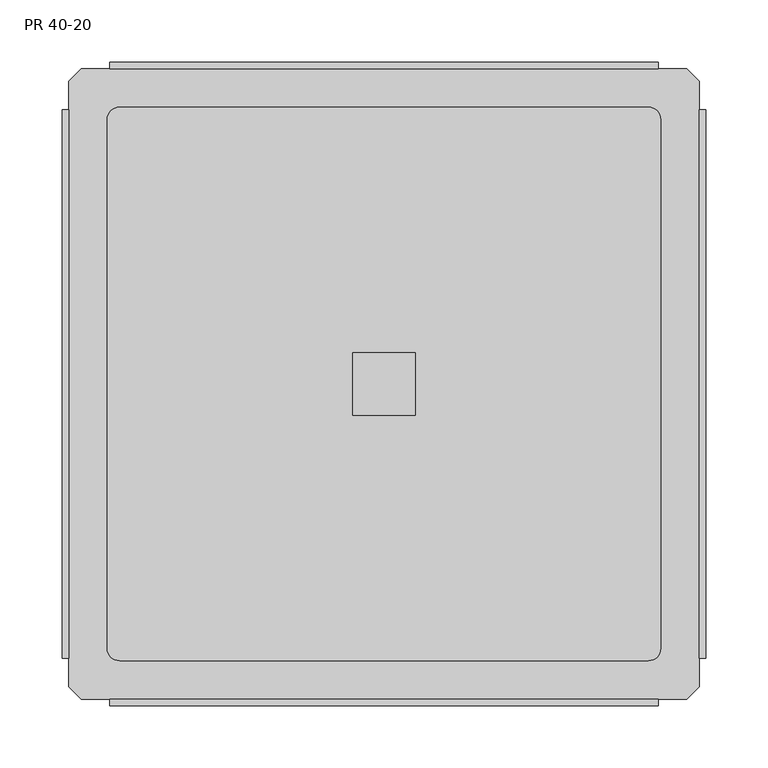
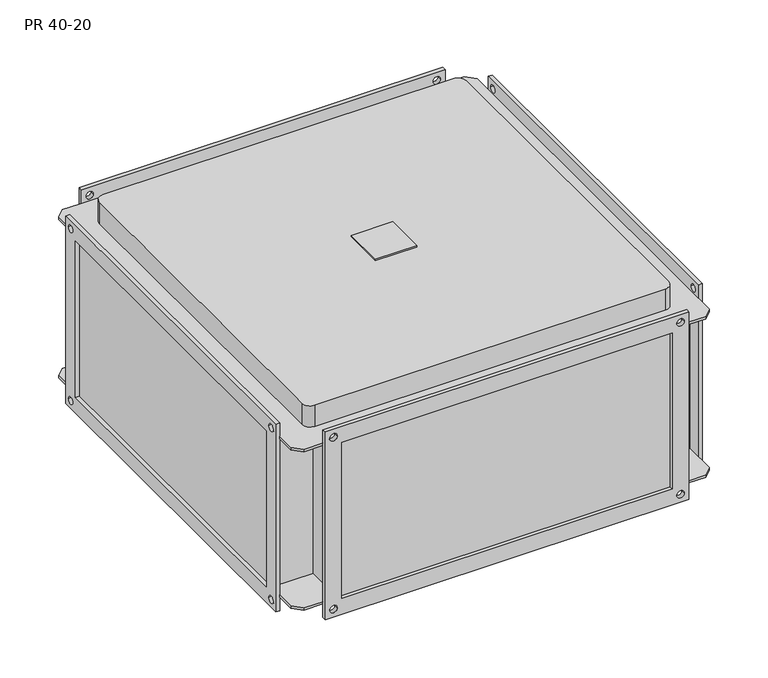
"""IFC4 building model written with IfcOpenShell, lengths in millimetres: proxy geometry, KORF_Рекуператор_Пластинчатый_PR : PR 40-20."""

from ifc_helpers import new_model, si_unit, point, frame, frame_2d, origin, place, context, project, spatial, polyline, circle_curve, trimmed, segment, composite_curve, outline, extrude, source, transform, mapped, element, save
from ifc_brep_helpers import plane_surface, cylinder_surface, revolved_surface, advanced_brep


def pr_40_20_e5f7a301(model_context):
    return source(origin(), model_context, "Body", "SolidModel", [
        extrude(outline(polyline([(233.0, -25.0), (233.0, 25.0), (283.0, 25.0), (283.0, -25.0), (233.0, -25.0)])), frame((0.0, 0.0, 130.0), z_axis=(0.0, 0.0, 1.0), x_axis=(1.0, 0.0, 0.0)), (0.0, 0.0, 1.0), 2.0),
        advanced_brep(
        [(458.0, -253.0, -100.0), (458.0, -253.0, 100.0), (58.0, -253.0, 100.0), (58.0, -253.0, -100.0), (458.0, 253.0, 100.0), (458.0, 253.0, -100.0), (58.0, 253.0, -100.0), (58.0, 253.0, 100.0), (15.0, 253.0, 103.0), (5.0, 243.0, 103.0), (5.0, -243.0, 103.0), (15.0, -253.0, 103.0), (38.0, -253.0, 103.0), (478.0, -253.0, 103.0), (501.0, -253.0, 103.0), (511.0, -243.0, 103.0), (511.0, 243.0, 103.0), (501.0, 253.0, 103.0), (478.0, 253.0, 103.0), (38.0, 253.0, 103.0), (46.0, 222.0, 103.0), (470.0, 222.0, 103.0), (480.0, 212.0, 103.0), (480.0, -212.0, 103.0), (470.0, -222.0, 103.0), (46.0, -222.0, 103.0), (36.0, -212.0, 103.0), (36.0, 212.0, 103.0), (55.0, -253.0, 100.0), (55.0, -203.0, 100.0), (55.0, -203.0, -100.0), (55.0, -253.0, -100.0), (55.0, 203.0, 100.0), (55.0, 253.0, 100.0), (55.0, 253.0, -100.0), (55.0, 203.0, -100.0), (5.0, 243.0, -103.0), (15.0, 253.0, -103.0), (38.0, 253.0, -103.0), (478.0, 253.0, -103.0), (501.0, 253.0, -103.0), (511.0, 243.0, -103.0), (511.0, -243.0, -103.0), (501.0, -253.0, -103.0), (478.0, -253.0, -103.0), (38.0, -253.0, -103.0), (15.0, -253.0, -103.0), (5.0, -243.0, -103.0), (461.0, -203.0, 100.0), (461.0, -253.0, 100.0), (461.0, -253.0, -100.0), (461.0, -203.0, -100.0), (461.0, 253.0, 100.0), (461.0, 203.0, 100.0), (461.0, 203.0, -100.0), (461.0, 253.0, -100.0), (511.0, 203.0, 100.0), (511.0, 243.0, 100.0), (511.0, -243.0, 100.0), (511.0, -203.0, 100.0), (511.0, -203.0, -100.0), (511.0, -243.0, -100.0), (511.0, 243.0, -100.0), (511.0, 203.0, -100.0), (5.0, 243.0, 100.0), (5.0, 203.0, 100.0), (5.0, 203.0, -100.0), (5.0, 243.0, -100.0), (5.0, -243.0, -100.0), (5.0, -203.0, -100.0), (5.0, -203.0, 100.0), (5.0, -243.0, 100.0), (478.0, 258.0, 120.0), (478.0, 258.0, -120.0), (38.0, 258.0, -120.0), (38.0, 258.0, 120.0), (458.0, 258.0, 100.0), (58.0, 258.0, 100.0), (58.0, 258.0, -100.0), (458.0, 258.0, -100.0), (43.5, 258.0, 110.0), (52.5, 258.0, 110.0), (463.5, 258.0, 110.0), (472.5, 258.0, 110.0), (463.5, 258.0, -110.0), (472.5, 258.0, -110.0), (43.5, 258.0, -110.0), (52.5, 258.0, -110.0), (478.0, 253.0, 120.0), (38.0, 253.0, 120.0), (43.5, 253.0, 110.0), (52.5, 253.0, 110.0), (463.5, 253.0, 110.0), (472.5, 253.0, 110.0), (38.0, 253.0, -120.0), (478.0, 253.0, -120.0), (463.5, 253.0, -110.0), (472.5, 253.0, -110.0), (43.5, 253.0, -110.0), (52.5, 253.0, -110.0), (38.0, 253.0, 100.0), (38.0, 253.0, -100.0), (478.0, 253.0, 100.0), (478.0, 253.0, -100.0), (478.0, -258.0, 120.0), (38.0, -258.0, 120.0), (38.0, -258.0, -120.0), (478.0, -258.0, -120.0), (458.0, -258.0, 100.0), (458.0, -258.0, -100.0), (58.0, -258.0, -100.0), (58.0, -258.0, 100.0), (463.5, -258.0, 110.0), (472.5, -258.0, 110.0), (463.5, -258.0, -110.0), (472.5, -258.0, -110.0), (43.5, -258.0, 110.0), (52.5, -258.0, 110.0), (43.5, -258.0, -110.0), (52.5, -258.0, -110.0), (478.0, -253.0, -120.0), (38.0, -253.0, -120.0), (463.5, -253.0, -110.0), (472.5, -253.0, -110.0), (43.5, -253.0, -110.0), (52.5, -253.0, -110.0), (38.0, -253.0, 120.0), (478.0, -253.0, 120.0), (463.5, -253.0, 110.0), (472.5, -253.0, 110.0), (43.5, -253.0, 110.0), (52.5, -253.0, 110.0), (38.0, -253.0, 100.0), (38.0, -253.0, -100.0), (478.0, -253.0, 100.0), (478.0, -253.0, -100.0), (501.0, -253.0, 100.0), (15.0, 253.0, 100.0), (501.0, 253.0, 100.0), (15.0, -253.0, 100.0), (501.0, 253.0, -100.0), (15.0, -253.0, -100.0), (15.0, 253.0, -100.0), (501.0, -253.0, -100.0), (470.0, 222.0, 130.0), (46.0, 222.0, 130.0), (36.0, 212.0, 130.0), (36.0, -212.0, 130.0), (46.0, -222.0, 130.0), (470.0, -222.0, 130.0), (480.0, -212.0, 130.0), (480.0, 212.0, 130.0)],
        [
            (0, 1),
            (1, 2),
            (2, 3),
            (3, 0),
            (4, 5),
            (5, 6),
            (6, 7),
            (7, 4),
            (8, 9),
            (9, 10),
            (10, 11),
            (11, 12),
            (12, 13),
            (13, 14),
            (14, 15),
            (15, 16),
            (16, 17),
            (17, 18),
            (18, 19),
            (19, 8),
            (20, 21),
            (21, 22, circle_curve(frame((470.0, 212.0, 103.0), z_axis=(0.0, 0.0, -1.0), x_axis=(1.0, 0.0, 0.0)), 10.0)),
            (22, 23),
            (23, 24, circle_curve(frame((470.0, -212.0, 103.0), z_axis=(0.0, 0.0, -1.0), x_axis=(1.0, 0.0, 0.0)), 10.0)),
            (24, 25),
            (25, 26, circle_curve(frame((46.0, -212.0, 103.0), z_axis=(0.0, 0.0, -1.0), x_axis=(1.0, 0.0, 0.0)), 10.0)),
            (26, 27),
            (27, 20, circle_curve(frame((46.0, 212.0, 103.0), z_axis=(0.0, 0.0, -1.0), x_axis=(1.0, 0.0, 0.0)), 10.0)),
            (28, 29),
            (29, 30),
            (30, 31),
            (31, 28),
            (32, 33),
            (33, 34),
            (34, 35),
            (35, 32),
            (36, 37),
            (37, 38),
            (38, 39),
            (39, 40),
            (40, 41),
            (41, 42),
            (42, 43),
            (43, 44),
            (44, 45),
            (45, 46),
            (46, 47),
            (47, 36),
            (48, 49),
            (49, 50),
            (50, 51),
            (51, 48),
            (52, 53),
            (53, 54),
            (54, 55),
            (55, 52),
            (56, 57),
            (57, 16),
            (15, 58),
            (58, 59),
            (59, 60),
            (60, 61),
            (61, 42),
            (41, 62),
            (62, 63),
            (63, 56),
            (64, 65),
            (65, 66),
            (66, 67),
            (67, 36),
            (47, 68),
            (68, 69),
            (69, 70),
            (70, 71),
            (71, 10),
            (9, 64),
            (29, 70),
            (69, 30),
            (59, 48),
            (51, 60),
            (65, 32),
            (35, 66),
            (53, 56),
            (63, 54),
            (72, 73),
            (73, 74),
            (74, 75),
            (75, 72),
            (76, 77),
            (77, 78),
            (78, 79),
            (79, 76),
            (80, 81, circle_curve(frame((48.0, 258.0, 110.0), z_axis=(0.0, -1.0, 0.0), x_axis=(1.0, 0.0, 0.0)), 4.5)),
            (81, 80, circle_curve(frame((48.0, 258.0, 110.0), z_axis=(0.0, -1.0, 0.0), x_axis=(1.0, 0.0, 0.0)), 4.5)),
            (82, 83, circle_curve(frame((468.0, 258.0, 110.0), z_axis=(0.0, -1.0, 0.0), x_axis=(1.0, 0.0, 0.0)), 4.5)),
            (83, 82, circle_curve(frame((468.0, 258.0, 110.0), z_axis=(0.0, -1.0, 0.0), x_axis=(1.0, 0.0, 0.0)), 4.5)),
            (84, 85, circle_curve(frame((468.0, 258.0, -110.0), z_axis=(0.0, -1.0, 0.0), x_axis=(1.0, 0.0, 0.0)), 4.5)),
            (85, 84, circle_curve(frame((468.0, 258.0, -110.0), z_axis=(0.0, -1.0, 0.0), x_axis=(1.0, 0.0, 0.0)), 4.5)),
            (86, 87, circle_curve(frame((48.0, 258.0, -110.0), z_axis=(0.0, -1.0, 0.0), x_axis=(1.0, 0.0, 0.0)), 4.5)),
            (87, 86, circle_curve(frame((48.0, 258.0, -110.0), z_axis=(0.0, -1.0, 0.0), x_axis=(1.0, 0.0, 0.0)), 4.5)),
            (88, 89),
            (89, 19),
            (18, 88),
            (90, 91, circle_curve(frame((48.0, 253.0, 110.0), z_axis=(0.0, 1.0, 0.0), x_axis=(1.0, 0.0, 0.0)), 4.5)),
            (91, 90, circle_curve(frame((48.0, 253.0, 110.0), z_axis=(0.0, 1.0, 0.0), x_axis=(1.0, 0.0, 0.0)), 4.5)),
            (92, 93, circle_curve(frame((468.0, 253.0, 110.0), z_axis=(0.0, 1.0, 0.0), x_axis=(1.0, 0.0, 0.0)), 4.5)),
            (93, 92, circle_curve(frame((468.0, 253.0, 110.0), z_axis=(0.0, 1.0, 0.0), x_axis=(1.0, 0.0, 0.0)), 4.5)),
            (94, 95),
            (95, 39),
            (38, 94),
            (96, 97, circle_curve(frame((468.0, 253.0, -110.0), z_axis=(0.0, 1.0, 0.0), x_axis=(1.0, 0.0, 0.0)), 4.5)),
            (97, 96, circle_curve(frame((468.0, 253.0, -110.0), z_axis=(0.0, 1.0, 0.0), x_axis=(1.0, 0.0, 0.0)), 4.5)),
            (98, 99, circle_curve(frame((48.0, 253.0, -110.0), z_axis=(0.0, 1.0, 0.0), x_axis=(1.0, 0.0, 0.0)), 4.5)),
            (99, 98, circle_curve(frame((48.0, 253.0, -110.0), z_axis=(0.0, 1.0, 0.0), x_axis=(1.0, 0.0, 0.0)), 4.5)),
            (33, 100),
            (100, 101),
            (101, 34),
            (102, 52),
            (55, 103),
            (103, 102),
            (75, 89),
            (88, 72),
            (74, 94),
            (38, 101),
            (100, 19),
            (73, 95),
            (18, 102),
            (103, 39),
            (79, 5),
            (4, 76),
            (78, 6),
            (77, 7),
            (104, 105),
            (105, 106),
            (106, 107),
            (107, 104),
            (108, 109),
            (109, 110),
            (110, 111),
            (111, 108),
            (112, 113, circle_curve(frame((468.0, -258.0, 110.0), z_axis=(0.0, 1.0, 0.0), x_axis=(1.0, 0.0, 0.0)), 4.5)),
            (113, 112, circle_curve(frame((468.0, -258.0, 110.0), z_axis=(0.0, 1.0, 0.0), x_axis=(1.0, 0.0, 0.0)), 4.5)),
            (114, 115, circle_curve(frame((468.0, -258.0, -110.0), z_axis=(0.0, 1.0, 0.0), x_axis=(1.0, 0.0, 0.0)), 4.5)),
            (115, 114, circle_curve(frame((468.0, -258.0, -110.0), z_axis=(0.0, 1.0, 0.0), x_axis=(1.0, 0.0, 0.0)), 4.5)),
            (116, 117, circle_curve(frame((48.0, -258.0, 110.0), z_axis=(0.0, 1.0, 0.0), x_axis=(1.0, 0.0, 0.0)), 4.5)),
            (117, 116, circle_curve(frame((48.0, -258.0, 110.0), z_axis=(0.0, 1.0, 0.0), x_axis=(1.0, 0.0, 0.0)), 4.5)),
            (118, 119, circle_curve(frame((48.0, -258.0, -110.0), z_axis=(0.0, 1.0, 0.0), x_axis=(1.0, 0.0, 0.0)), 4.5)),
            (119, 118, circle_curve(frame((48.0, -258.0, -110.0), z_axis=(0.0, 1.0, 0.0), x_axis=(1.0, 0.0, 0.0)), 4.5)),
            (120, 121),
            (121, 45),
            (44, 120),
            (122, 123, circle_curve(frame((468.0, -253.0, -110.0), z_axis=(0.0, -1.0, 0.0), x_axis=(1.0, 0.0, 0.0)), 4.5)),
            (123, 122, circle_curve(frame((468.0, -253.0, -110.0), z_axis=(0.0, -1.0, 0.0), x_axis=(1.0, 0.0, 0.0)), 4.5)),
            (124, 125, circle_curve(frame((48.0, -253.0, -110.0), z_axis=(0.0, -1.0, 0.0), x_axis=(1.0, 0.0, 0.0)), 4.5)),
            (125, 124, circle_curve(frame((48.0, -253.0, -110.0), z_axis=(0.0, -1.0, 0.0), x_axis=(1.0, 0.0, 0.0)), 4.5)),
            (126, 127),
            (127, 13),
            (12, 126),
            (128, 129, circle_curve(frame((468.0, -253.0, 110.0), z_axis=(0.0, -1.0, 0.0), x_axis=(1.0, 0.0, 0.0)), 4.5)),
            (129, 128, circle_curve(frame((468.0, -253.0, 110.0), z_axis=(0.0, -1.0, 0.0), x_axis=(1.0, 0.0, 0.0)), 4.5)),
            (130, 131, circle_curve(frame((48.0, -253.0, 110.0), z_axis=(0.0, -1.0, 0.0), x_axis=(1.0, 0.0, 0.0)), 4.5)),
            (131, 130, circle_curve(frame((48.0, -253.0, 110.0), z_axis=(0.0, -1.0, 0.0), x_axis=(1.0, 0.0, 0.0)), 4.5)),
            (132, 28),
            (31, 133),
            (133, 132),
            (49, 134),
            (134, 135),
            (135, 50),
            (104, 127),
            (126, 105),
            (12, 132),
            (133, 45),
            (121, 106),
            (120, 107),
            (44, 135),
            (134, 13),
            (108, 1),
            (0, 109),
            (3, 110),
            (2, 111),
            (81, 91),
            (90, 80),
            (83, 93),
            (92, 82),
            (85, 97),
            (96, 84),
            (87, 99),
            (98, 86),
            (112, 128),
            (129, 113),
            (114, 122),
            (123, 115),
            (116, 130),
            (131, 117),
            (118, 124),
            (125, 119),
            (58, 136),
            (136, 134),
            (64, 137),
            (137, 100),
            (138, 57),
            (102, 138),
            (139, 71),
            (132, 139),
            (137, 8),
            (138, 17),
            (139, 11),
            (136, 14),
            (62, 140),
            (140, 103),
            (68, 141),
            (141, 133),
            (142, 67),
            (101, 142),
            (143, 61),
            (135, 143),
            (37, 142),
            (40, 140),
            (46, 141),
            (43, 143),
            (144, 145),
            (145, 146, circle_curve(frame((46.0, 212.0, 130.0), z_axis=(0.0, 0.0, 1.0), x_axis=(1.0, 0.0, 0.0)), 10.0)),
            (146, 147),
            (147, 148, circle_curve(frame((46.0, -212.0, 130.0), z_axis=(0.0, 0.0, 1.0), x_axis=(1.0, 0.0, 0.0)), 10.0)),
            (148, 149),
            (149, 150, circle_curve(frame((470.0, -212.0, 130.0), z_axis=(0.0, 0.0, 1.0), x_axis=(1.0, 0.0, 0.0)), 10.0)),
            (150, 151),
            (151, 144, circle_curve(frame((470.0, 212.0, 130.0), z_axis=(0.0, 0.0, 1.0), x_axis=(1.0, 0.0, 0.0)), 10.0)),
            (144, 21),
            (20, 145),
            (27, 146),
            (26, 147),
            (25, 148),
            (24, 149),
            (23, 150),
            (22, 151),
        ],
        [
            plane_surface(frame((55.0, -253.0, 103.0), z_axis=(0.0, -1.0, 0.0), x_axis=(-1.0, 0.0, 0.0))),
            plane_surface(frame((55.0, 253.0, 103.0), z_axis=(0.0, 1.0, 0.0), x_axis=(1.0, 0.0, 0.0))),
            plane_surface(frame((461.0, -253.0, 103.0), z_axis=(0.0, 0.0, 1.0), x_axis=(0.0, 1.0, 0.0))),
            plane_surface(frame((55.0, -253.0, 103.0), z_axis=(-1.0, 0.0, 0.0), x_axis=(0.0, 1.0, 0.0))),
            plane_surface(frame((55.0, -253.0, -103.0), z_axis=(0.0, 0.0, -1.0), x_axis=(0.0, 1.0, 0.0))),
            plane_surface(frame((461.0, -253.0, -103.0), z_axis=(1.0, 0.0, 0.0), x_axis=(0.0, 1.0, 0.0))),
            plane_surface(frame((511.0, -203.0, 103.0), z_axis=(1.0, 0.0, 0.0), x_axis=(0.0, 0.0, -1.0))),
            plane_surface(frame((5.0, -203.0, 103.0), z_axis=(-1.0, 0.0, 0.0), x_axis=(0.0, 0.0, 1.0))),
            plane_surface(frame((511.0, -203.0, 103.0), z_axis=(0.0, -1.0, 0.0), x_axis=(-1.0, 0.0, 0.0))),
            plane_surface(frame((511.0, 203.0, -103.0), z_axis=(0.0, 1.0, 0.0), x_axis=(-1.0, 0.0, 0.0))),
            plane_surface(frame((38.0, 258.0, 120.0), z_axis=(0.0, 1.0, 0.0), x_axis=(1.0, 0.0, 0.0))),
            plane_surface(frame((38.0, 253.0, 120.0), z_axis=(0.0, -1.0, 0.0), x_axis=(-1.0, 0.0, 0.0))),
            plane_surface(frame((478.0, 253.0, 120.0), z_axis=(0.0, 0.0, 1.0), x_axis=(0.0, 1.0, 0.0))),
            plane_surface(frame((38.0, 253.0, 120.0), z_axis=(-1.0, 0.0, 0.0), x_axis=(0.0, 1.0, 0.0))),
            plane_surface(frame((38.0, 253.0, -120.0), z_axis=(0.0, 0.0, -1.0), x_axis=(0.0, 1.0, 0.0))),
            plane_surface(frame((478.0, 253.0, -120.0), z_axis=(1.0, 0.0, 0.0), x_axis=(0.0, 1.0, 0.0))),
            plane_surface(frame((458.0, 253.0, 100.0), z_axis=(-1.0, 0.0, 0.0), x_axis=(0.0, 1.0, 0.0))),
            plane_surface(frame((458.0, 253.0, -100.0), z_axis=(0.0, 0.0, 1.0), x_axis=(0.0, 1.0, 0.0))),
            plane_surface(frame((58.0, 253.0, -100.0), z_axis=(1.0, 0.0, 0.0), x_axis=(0.0, 1.0, 0.0))),
            plane_surface(frame((58.0, 253.0, 100.0), z_axis=(0.0, 0.0, -1.0), x_axis=(0.0, 1.0, 0.0))),
            plane_surface(frame((38.0, -258.0, 120.0), z_axis=(0.0, -1.0, 0.0), x_axis=(-1.0, 0.0, 0.0))),
            plane_surface(frame((38.0, -253.0, 120.0), z_axis=(0.0, 1.0, 0.0), x_axis=(1.0, 0.0, 0.0))),
            plane_surface(frame((478.0, -258.0, 120.0), z_axis=(0.0, 0.0, 1.0), x_axis=(0.0, 1.0, 0.0))),
            plane_surface(frame((38.0, -258.0, 120.0), z_axis=(-1.0, 0.0, 0.0), x_axis=(0.0, 1.0, 0.0))),
            plane_surface(frame((38.0, -258.0, -120.0), z_axis=(0.0, 0.0, -1.0), x_axis=(0.0, 1.0, 0.0))),
            plane_surface(frame((478.0, -258.0, -120.0), z_axis=(1.0, 0.0, 0.0), x_axis=(0.0, 1.0, 0.0))),
            plane_surface(frame((458.0, -258.0, 100.0), z_axis=(-1.0, 0.0, 0.0), x_axis=(0.0, 1.0, 0.0))),
            plane_surface(frame((458.0, -258.0, -100.0), z_axis=(0.0, 0.0, 1.0), x_axis=(0.0, 1.0, 0.0))),
            plane_surface(frame((58.0, -258.0, -100.0), z_axis=(1.0, 0.0, 0.0), x_axis=(0.0, 1.0, 0.0))),
            plane_surface(frame((58.0, -258.0, 100.0), z_axis=(0.0, 0.0, -1.0), x_axis=(0.0, 1.0, 0.0))),
            revolved_surface(polyline([(52.5, 258.0, 110.0), (52.5, 253.0, 110.0)]), (48.0, 0.0, 110.0), (0.0, 1.0, 0.0)),
            revolved_surface(polyline([(472.5, 258.0, 110.0), (472.5, 253.0, 110.0)]), (468.0, 0.0, 110.0), (0.0, 1.0, 0.0)),
            revolved_surface(polyline([(472.5, 258.0, -110.0), (472.5, 253.0, -110.0)]), (468.0, 0.0, -110.0), (0.0, 1.0, 0.0)),
            revolved_surface(polyline([(52.5, 258.0, -110.0), (52.5, 253.0, -110.0)]), (48.0, 0.0, -110.0), (0.0, 1.0, 0.0)),
            revolved_surface(polyline([(472.5, -253.0, 110.0), (472.5, -258.0, 110.0)]), (468.0, 0.0, 110.0), (0.0, 1.0, 0.0)),
            revolved_surface(polyline([(472.5, -253.0, -110.0), (472.5, -258.0, -110.0)]), (468.0, 0.0, -110.0), (0.0, 1.0, 0.0)),
            revolved_surface(polyline([(52.5, -253.0, 110.0), (52.5, -258.0, 110.0)]), (48.0, 0.0, 110.0), (0.0, 1.0, 0.0)),
            revolved_surface(polyline([(52.5, -253.0, -110.0), (52.5, -258.0, -110.0)]), (48.0, 0.0, -110.0), (0.0, 1.0, 0.0)),
            plane_surface(frame((55.0, 203.0, 100.0), z_axis=(0.0, 0.0, -1.0), x_axis=(0.0, -1.0, 0.0))),
            plane_surface(frame((55.0, 253.0, 103.0), z_axis=(0.0, 1.0, 0.0), x_axis=(0.0, 0.0, -1.0))),
            plane_surface(frame((15.0, 253.0, 103.0), z_axis=(-0.707106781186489, 0.7071067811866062, 0.0), x_axis=(0.0, 0.0, -1.0))),
            plane_surface(frame((511.0, 243.0, 103.0), z_axis=(0.7071067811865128, 0.7071067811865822, 0.0), x_axis=(0.0, 0.0, -1.0))),
            plane_surface(frame((501.0, 253.0, 103.0), z_axis=(0.0, 1.0, 0.0), x_axis=(0.0, 0.0, -1.0))),
            plane_surface(frame((5.0, -243.0, 103.0), z_axis=(-0.707106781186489, -0.7071067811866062, 0.0), x_axis=(0.0, 0.0, -1.0))),
            plane_surface(frame((15.0, -253.0, 103.0), z_axis=(0.0, -1.0, 0.0), x_axis=(0.0, 0.0, -1.0))),
            plane_surface(frame((461.0, -253.0, 103.0), z_axis=(0.0, -1.0, 0.0), x_axis=(0.0, 0.0, -1.0))),
            plane_surface(frame((501.0, -253.0, 103.0), z_axis=(0.7071067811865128, -0.7071067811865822, 0.0), x_axis=(0.0, 0.0, -1.0))),
            plane_surface(frame((55.0, 203.0, -100.0), z_axis=(0.0, 0.0, 1.0), x_axis=(0.0, 1.0, 0.0))),
            plane_surface(frame((55.0, 253.0, -100.0), z_axis=(0.0, 1.0, 0.0), x_axis=(0.0, 0.0, -1.0))),
            plane_surface(frame((15.0, 253.0, -100.0), z_axis=(-0.707106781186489, 0.7071067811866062, 0.0), x_axis=(0.0, 0.0, -1.0))),
            plane_surface(frame((511.0, 243.0, -100.0), z_axis=(0.7071067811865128, 0.7071067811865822, 0.0), x_axis=(0.0, 0.0, -1.0))),
            plane_surface(frame((501.0, 253.0, -100.0), z_axis=(0.0, 1.0, 0.0), x_axis=(0.0, 0.0, -1.0))),
            plane_surface(frame((5.0, -243.0, -100.0), z_axis=(-0.707106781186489, -0.7071067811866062, 0.0), x_axis=(0.0, 0.0, -1.0))),
            plane_surface(frame((15.0, -253.0, -100.0), z_axis=(0.0, -1.0, 0.0), x_axis=(0.0, 0.0, -1.0))),
            plane_surface(frame((461.0, -253.0, -100.0), z_axis=(0.0, -1.0, 0.0), x_axis=(0.0, 0.0, -1.0))),
            plane_surface(frame((501.0, -253.0, -100.0), z_axis=(0.7071067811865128, -0.7071067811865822, 0.0), x_axis=(0.0, 0.0, -1.0))),
            plane_surface(frame((46.0, 222.0, 130.0), z_axis=(0.0, 0.0, 1.0), x_axis=(-1.0, 0.0, 0.0))),
            plane_surface(frame((470.0, 222.0, 130.0), z_axis=(0.0, 1.0, 0.0), x_axis=(0.0, 0.0, -1.0))),
            cylinder_surface(frame((46.0, 212.0, 103.0), z_axis=(0.0, 0.0, 1.0), x_axis=(1.0, 0.0, 0.0)), 10.0),
            plane_surface(frame((36.0, 212.0, 130.0), z_axis=(-1.0, 0.0, 0.0), x_axis=(0.0, 0.0, -1.0))),
            cylinder_surface(frame((46.0, -212.0, 103.0), z_axis=(0.0, 0.0, 1.0), x_axis=(1.0, 0.0, 0.0)), 10.0),
            plane_surface(frame((46.0, -222.0, 130.0), z_axis=(0.0, -1.0, 0.0), x_axis=(0.0, 0.0, -1.0))),
            cylinder_surface(frame((470.0, -212.0, 103.0), z_axis=(0.0, 0.0, 1.0), x_axis=(1.0, 0.0, 0.0)), 10.0),
            plane_surface(frame((480.0, -212.0, 130.0), z_axis=(1.0, 0.0, 0.0), x_axis=(0.0, 0.0, -1.0))),
            cylinder_surface(frame((470.0, 212.0, 103.0), z_axis=(0.0, 0.0, 1.0), x_axis=(1.0, 0.0, 0.0)), 10.0),
        ],
        [
            (0, [[1, 2, 3, 4]]),
            (1, [[5, 6, 7, 8]]),
            (2, [[9, 10, 11, 12, 13, 14, 15, 16, 17, 18, 19, 20], [21, 22, 23, 24, 25, 26, 27, 28]]),
            (3, [[29, 30, 31, 32]]),
            (3, [[33, 34, 35, 36]]),
            (4, [[37, 38, 39, 40, 41, 42, 43, 44, 45, 46, 47, 48]]),
            (5, [[49, 50, 51, 52]]),
            (5, [[53, 54, 55, 56]]),
            (6, [[57, 58, -16, 59, 60, 61, 62, 63, -42, 64, 65, 66]]),
            (7, [[67, 68, 69, 70, -48, 71, 72, 73, 74, 75, -10, 76]]),
            (8, [[77, -73, 78, -30]]),
            (8, [[79, -52, 80, -61]]),
            (9, [[81, -36, 82, -68]]),
            (9, [[83, -66, 84, -54]]),
            (10, [[85, 86, 87, 88], [89, 90, 91, 92], [93, 94], [95, 96], [97, 98], [99, 100]]),
            (11, [[101, 102, -19, 103], [104, 105], [106, 107]]),
            (11, [[108, 109, -39, 110], [111, 112], [113, 114]]),
            (11, [[115, 116, 117, -34]]),
            (11, [[118, -56, 119, 120]]),
            (12, [[-88, 121, -101, 122]]),
            (13, [[-87, 123, -110, 124, -116, 125, -102, -121]]),
            (14, [[-86, 126, -108, -123]]),
            (15, [[-85, -122, -103, 127, -120, 128, -109, -126]]),
            (16, [[-92, 129, -5, 130]]),
            (17, [[-91, 131, -6, -129]]),
            (18, [[-90, 132, -7, -131]]),
            (19, [[-89, -130, -8, -132]]),
            (20, [[133, 134, 135, 136], [137, 138, 139, 140], [141, 142], [143, 144], [145, 146], [147, 148]]),
            (21, [[149, 150, -45, 151], [152, 153], [154, 155]]),
            (21, [[156, 157, -13, 158], [159, 160], [161, 162]]),
            (21, [[163, -32, 164, 165]]),
            (21, [[166, 167, 168, -50]]),
            (22, [[-133, 169, -156, 170]]),
            (23, [[-134, -170, -158, 171, -165, 172, -150, 173]]),
            (24, [[-135, -173, -149, 174]]),
            (25, [[-136, -174, -151, 175, -167, 176, -157, -169]]),
            (26, [[-137, 177, -1, 178]]),
            (27, [[-138, -178, -4, 179]]),
            (28, [[-139, -179, -3, 180]]),
            (29, [[-140, -180, -2, -177]]),
            (30, [[-94, 181, -104, 182]]),
            (30, [[-93, -182, -105, -181]]),
            (31, [[-96, 183, -106, 184]]),
            (31, [[-95, -184, -107, -183]]),
            (32, [[-98, 185, -111, 186]]),
            (32, [[-97, -186, -112, -185]]),
            (33, [[-100, 187, -113, 188]]),
            (33, [[-99, -188, -114, -187]]),
            (34, [[-141, 189, -160, 190]]),
            (34, [[-142, -190, -159, -189]]),
            (35, [[-143, 191, -153, 192]]),
            (35, [[-144, -192, -152, -191]]),
            (36, [[-145, 193, -162, 194]]),
            (36, [[-146, -194, -161, -193]]),
            (37, [[-147, 195, -155, 196]]),
            (37, [[-148, -196, -154, -195]]),
            (38, [[-60, 197, 198, -166, -49, -79]]),
            (38, [[-67, 199, 200, -115, -33, -81]]),
            (38, [[201, -57, -83, -53, -118, 202]]),
            (38, [[203, -74, -77, -29, -163, 204]]),
            (39, [[205, -20, -125, -200]]),
            (40, [[-199, -76, -9, -205]]),
            (41, [[-201, 206, -17, -58]]),
            (42, [[-206, -202, -127, -18]]),
            (43, [[-203, 207, -11, -75]]),
            (44, [[-207, -204, -171, -12]]),
            (45, [[208, -14, -176, -198]]),
            (46, [[-197, -59, -15, -208]]),
            (47, [[-65, 209, 210, -119, -55, -84]]),
            (47, [[-72, 211, 212, -164, -31, -78]]),
            (47, [[213, -69, -82, -35, -117, 214]]),
            (47, [[215, -62, -80, -51, -168, 216]]),
            (48, [[217, -214, -124, -38]]),
            (49, [[-213, -217, -37, -70]]),
            (50, [[-209, -64, -41, 218]]),
            (51, [[-218, -40, -128, -210]]),
            (52, [[-211, -71, -47, 219]]),
            (53, [[-219, -46, -172, -212]]),
            (54, [[220, -216, -175, -44]]),
            (55, [[-215, -220, -43, -63]]),
            (56, [[221, 222, 223, 224, 225, 226, 227, 228]]),
            (57, [[-221, 229, -21, 230]]),
            (58, [[-222, -230, -28, 231]]),
            (59, [[-223, -231, -27, 232]]),
            (60, [[-224, -232, -26, 233]]),
            (61, [[-225, -233, -25, 234]]),
            (62, [[-226, -234, -24, 235]]),
            (63, [[-227, -235, -23, 236]]),
            (64, [[-228, -236, -22, -229]]),
        ],
    ),
        extrude(outline(polyline([(-220.0, 120.0), (220.0, 120.0), (220.0, -120.0), (-220.0, -120.0), (-220.0, 120.0)]), holes=[polyline([(-200.0, 100.0), (-200.0, -100.0), (200.0, -100.0), (200.0, 100.0), (-200.0, 100.0)]), composite_curve([segment(trimmed(circle_curve(frame_2d((210.0, 110.0)), 4.5), [point((205.5, 110.0))], [point((214.5, 110.0))], True, "CARTESIAN"), True, "CONTINUOUS"), segment(trimmed(circle_curve(frame_2d((210.0, 110.0)), 4.5), [point((214.5, 110.0))], [point((205.5, 110.0))], True, "CARTESIAN"), True, "CONTINUOUS")], self_intersect=False), composite_curve([segment(trimmed(circle_curve(frame_2d((-210.0, 110.0)), 4.5), [point((-214.5, 110.0))], [point((-205.5, 110.0))], True, "CARTESIAN"), True, "CONTINUOUS"), segment(trimmed(circle_curve(frame_2d((-210.0, 110.0)), 4.5), [point((-205.5, 110.0))], [point((-214.5, 110.0))], True, "CARTESIAN"), True, "CONTINUOUS")], self_intersect=False), composite_curve([segment(trimmed(circle_curve(frame_2d((-210.0, -110.0)), 4.5), [point((-214.5, -110.0))], [point((-205.5, -110.0))], True, "CARTESIAN"), True, "CONTINUOUS"), segment(trimmed(circle_curve(frame_2d((-210.0, -110.0)), 4.5), [point((-205.5, -110.0))], [point((-214.5, -110.0))], True, "CARTESIAN"), True, "CONTINUOUS")], self_intersect=False), composite_curve([segment(trimmed(circle_curve(frame_2d((210.0, -110.0)), 4.5), [point((205.5, -110.0))], [point((214.5, -110.0))], True, "CARTESIAN"), True, "CONTINUOUS"), segment(trimmed(circle_curve(frame_2d((210.0, -110.0)), 4.5), [point((214.5, -110.0))], [point((205.5, -110.0))], True, "CARTESIAN"), True, "CONTINUOUS")], self_intersect=False)]), frame((511.0, 0.0, 0.0), z_axis=(1.0, 0.0, 0.0), x_axis=(0.0, 1.0, 0.0)), (0.0, 0.0, 1.0), 5.0),
        advanced_brep(
        [(0.0, -220.0, 120.0), (0.0, 220.0, 120.0), (0.0, 220.0, -120.0), (0.0, -220.0, -120.0), (0.0, -200.0, 100.0), (0.0, -200.0, -100.0), (0.0, 200.0, -100.0), (0.0, 200.0, 100.0), (0.0, 205.5, 110.0), (0.0, 214.5, 110.0), (0.0, -214.5, 110.0), (0.0, -205.5, 110.0), (0.0, -214.5, -110.0), (0.0, -205.5, -110.0), (0.0, 205.5, -110.0), (0.0, 214.5, -110.0), (5.0, -220.0, 120.0), (5.0, -220.0, -120.0), (5.0, 220.0, -120.0), (5.0, 220.0, 120.0), (5.0, 214.5, 110.0), (5.0, 205.5, 110.0), (5.0, -205.5, 110.0), (5.0, -214.5, 110.0), (5.0, -205.5, -110.0), (5.0, -214.5, -110.0), (5.0, 214.5, -110.0), (5.0, 205.5, -110.0), (5.0, -200.0, -100.0), (5.0, -200.0, 100.0), (5.0, 200.0, 100.0), (5.0, 200.0, -100.0), (5.0, 200.0, 100.0), (5.0, -200.0, 100.0), (5.0, 200.0, -100.0), (5.0, -200.0, -100.0), (511.0, -200.0, 100.0), (511.0, -200.0, -100.0), (511.0, 200.0, 100.0), (511.0, 200.0, -100.0)],
        [
            (0, 1),
            (1, 2),
            (2, 3),
            (3, 0),
            (4, 5),
            (5, 6),
            (6, 7),
            (7, 4),
            (8, 9, circle_curve(frame((0.0, 210.0, 110.0), z_axis=(1.0, 0.0, 0.0), x_axis=(0.0, 1.0, 0.0)), 4.5)),
            (9, 8, circle_curve(frame((0.0, 210.0, 110.0), z_axis=(1.0, 0.0, 0.0), x_axis=(0.0, 1.0, 0.0)), 4.5)),
            (10, 11, circle_curve(frame((0.0, -210.0, 110.0), z_axis=(1.0, 0.0, 0.0), x_axis=(0.0, 1.0, 0.0)), 4.5)),
            (11, 10, circle_curve(frame((0.0, -210.0, 110.0), z_axis=(1.0, 0.0, 0.0), x_axis=(0.0, 1.0, 0.0)), 4.5)),
            (12, 13, circle_curve(frame((0.0, -210.0, -110.0), z_axis=(1.0, 0.0, 0.0), x_axis=(0.0, 1.0, 0.0)), 4.5)),
            (13, 12, circle_curve(frame((0.0, -210.0, -110.0), z_axis=(1.0, 0.0, 0.0), x_axis=(0.0, 1.0, 0.0)), 4.5)),
            (14, 15, circle_curve(frame((0.0, 210.0, -110.0), z_axis=(1.0, 0.0, 0.0), x_axis=(0.0, 1.0, 0.0)), 4.5)),
            (15, 14, circle_curve(frame((0.0, 210.0, -110.0), z_axis=(1.0, 0.0, 0.0), x_axis=(0.0, 1.0, 0.0)), 4.5)),
            (16, 17),
            (17, 18),
            (18, 19),
            (19, 16),
            (20, 21, circle_curve(frame((5.0, 210.0, 110.0), z_axis=(-1.0, 0.0, 0.0), x_axis=(0.0, 1.0, 0.0)), 4.5)),
            (21, 20, circle_curve(frame((5.0, 210.0, 110.0), z_axis=(-1.0, 0.0, 0.0), x_axis=(0.0, 1.0, 0.0)), 4.5)),
            (22, 23, circle_curve(frame((5.0, -210.0, 110.0), z_axis=(-1.0, 0.0, 0.0), x_axis=(0.0, 1.0, 0.0)), 4.5)),
            (23, 22, circle_curve(frame((5.0, -210.0, 110.0), z_axis=(-1.0, 0.0, 0.0), x_axis=(0.0, 1.0, 0.0)), 4.5)),
            (24, 25, circle_curve(frame((5.0, -210.0, -110.0), z_axis=(-1.0, 0.0, 0.0), x_axis=(0.0, 1.0, 0.0)), 4.5)),
            (25, 24, circle_curve(frame((5.0, -210.0, -110.0), z_axis=(-1.0, 0.0, 0.0), x_axis=(0.0, 1.0, 0.0)), 4.5)),
            (26, 27, circle_curve(frame((5.0, 210.0, -110.0), z_axis=(-1.0, 0.0, 0.0), x_axis=(0.0, 1.0, 0.0)), 4.5)),
            (27, 26, circle_curve(frame((5.0, 210.0, -110.0), z_axis=(-1.0, 0.0, 0.0), x_axis=(0.0, 1.0, 0.0)), 4.5)),
            (28, 29),
            (29, 30),
            (30, 31),
            (31, 28),
            (3, 17),
            (16, 0),
            (2, 18),
            (1, 19),
            (7, 32),
            (32, 33),
            (33, 4),
            (6, 34),
            (34, 32),
            (5, 35),
            (35, 34),
            (33, 35),
            (20, 9),
            (8, 21),
            (22, 11),
            (10, 23),
            (24, 13),
            (12, 25),
            (26, 15),
            (14, 27),
            (36, 29),
            (28, 37),
            (37, 36),
            (38, 39),
            (39, 31),
            (30, 38),
            (36, 38),
            (39, 37),
        ],
        [
            plane_surface(frame((0.0, -220.0, 120.0), z_axis=(-1.0, 0.0, 0.0), x_axis=(0.0, 0.0, 1.0))),
            plane_surface(frame((5.0, -220.0, 120.0), z_axis=(1.0, 0.0, 0.0), x_axis=(0.0, 0.0, -1.0))),
            plane_surface(frame((5.0, -220.0, 120.0), z_axis=(0.0, -1.0, 0.0), x_axis=(-1.0, 0.0, 0.0))),
            plane_surface(frame((5.0, -220.0, -120.0), z_axis=(0.0, 0.0, -1.0), x_axis=(-1.0, 0.0, 0.0))),
            plane_surface(frame((5.0, 220.0, -120.0), z_axis=(0.0, 1.0, 0.0), x_axis=(-1.0, 0.0, 0.0))),
            plane_surface(frame((5.0, 220.0, 120.0), z_axis=(0.0, 0.0, 1.0), x_axis=(-1.0, 0.0, 0.0))),
            plane_surface(frame((5.0, -200.0, 100.0), z_axis=(0.0, 0.0, -1.0), x_axis=(-1.0, 0.0, 0.0))),
            plane_surface(frame((5.0, 200.0, 100.0), z_axis=(0.0, -1.0, 0.0), x_axis=(-1.0, 0.0, 0.0))),
            plane_surface(frame((5.0, 200.0, -100.0), z_axis=(0.0, 0.0, 1.0), x_axis=(-1.0, 0.0, 0.0))),
            plane_surface(frame((5.0, -200.0, -100.0), z_axis=(0.0, 1.0, 0.0), x_axis=(-1.0, 0.0, 0.0))),
            revolved_surface(polyline([(5.0, 214.5, 110.0), (0.0, 214.5, 110.0)]), (0.0, 210.0, 110.0), (1.0, 0.0, 0.0)),
            revolved_surface(polyline([(5.0, -205.5, 110.0), (0.0, -205.5, 110.0)]), (0.0, -210.0, 110.0), (1.0, 0.0, 0.0)),
            revolved_surface(polyline([(5.0, -205.5, -110.0), (0.0, -205.5, -110.0)]), (0.0, -210.0, -110.0), (1.0, 0.0, 0.0)),
            revolved_surface(polyline([(5.0, 214.5, -110.0), (0.0, 214.5, -110.0)]), (0.0, 210.0, -110.0), (1.0, 0.0, 0.0)),
            plane_surface(frame((5.0, -200.0, 100.0), z_axis=(0.0, -1.0, 0.0), x_axis=(-1.0, 0.0, 0.0))),
            plane_surface(frame((5.0, 200.0, 100.0), z_axis=(0.0, 1.0, 0.0), x_axis=(1.0, 0.0, 0.0))),
            plane_surface(frame((511.0, -200.0, 100.0), z_axis=(0.0, 0.0, 1.0), x_axis=(0.0, 1.0, 0.0))),
            plane_surface(frame((5.0, -200.0, 100.0), z_axis=(-1.0, 0.0, 0.0), x_axis=(0.0, 1.0, 0.0))),
            plane_surface(frame((5.0, -200.0, -100.0), z_axis=(0.0, 0.0, -1.0), x_axis=(0.0, 1.0, 0.0))),
            plane_surface(frame((511.0, -200.0, -100.0), z_axis=(1.0, 0.0, 0.0), x_axis=(0.0, 1.0, 0.0))),
        ],
        [
            (0, [[1, 2, 3, 4], [5, 6, 7, 8], [9, 10], [11, 12], [13, 14], [15, 16]]),
            (1, [[17, 18, 19, 20], [21, 22], [23, 24], [25, 26], [27, 28], [29, 30, 31, 32]]),
            (2, [[-4, 33, -17, 34]]),
            (3, [[-3, 35, -18, -33]]),
            (4, [[-2, 36, -19, -35]]),
            (5, [[-1, -34, -20, -36]]),
            (6, [[-8, 37, 38, 39]]),
            (7, [[-7, 40, 41, -37]]),
            (8, [[-6, 42, 43, -40]]),
            (9, [[-5, -39, 44, -42]]),
            (10, [[45, -9, 46, -21]]),
            (10, [[-45, -22, -46, -10]]),
            (11, [[47, -11, 48, -23]]),
            (11, [[-47, -24, -48, -12]]),
            (12, [[49, -13, 50, -25]]),
            (12, [[-49, -26, -50, -14]]),
            (13, [[51, -15, 52, -27]]),
            (13, [[-51, -28, -52, -16]]),
            (14, [[53, -29, 54, 55]]),
            (15, [[56, 57, -31, 58]]),
            (16, [[-53, 59, -58, -30]]),
            (17, [[-38, -41, -43, -44]]),
            (18, [[-54, -32, -57, 60]]),
            (19, [[-55, -60, -56, -59]]),
        ],
    ),
    ])


if __name__ == "__main__":
    model = new_model("IFC4")
    model_context = context("Model", 3, world=origin())
    ifc_project = project(units=[si_unit("LENGTHUNIT", "METRE", prefix="MILLI")], contexts=[model_context])
    site = spatial("IfcSite", under=ifc_project)
    building = spatial("IfcBuilding", under=site)
    placement = place(None, origin())
    pr_40_20_shape = pr_40_20_e5f7a301(model_context)
    element("IfcBuildingElementProxy", 1, Name="KORF_Рекуператор_Пластинчатый_PR : PR 40-20", ObjectType="KORF_Рекуператор_Пластинчатый_PR : PR 40-20", at=placement, inside=building, context=model_context, shape_type="MappedRepresentation", body=[
        mapped(pr_40_20_shape, transform((0.0, 0.0, 0.0), x_axis=(1.0, 0.0, 0.0), y_axis=(0.0, 1.0, 0.0), z_axis=(0.0, 0.0, 1.0))),
    ])
    save(model, "model.ifc")
